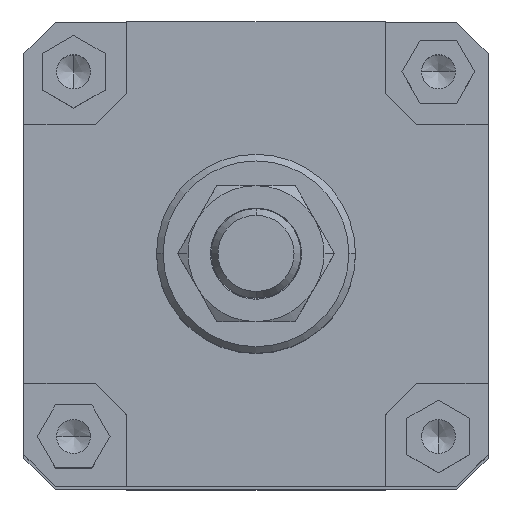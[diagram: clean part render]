
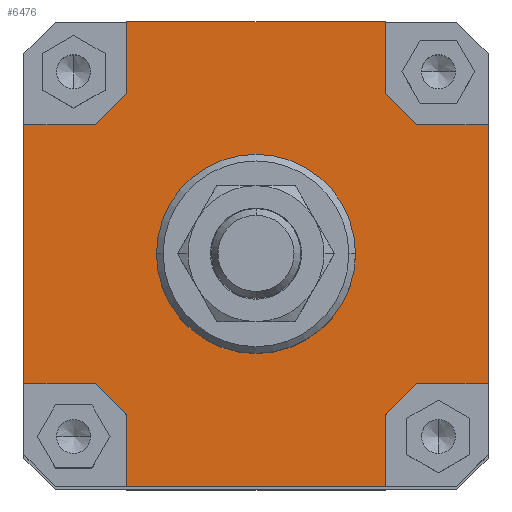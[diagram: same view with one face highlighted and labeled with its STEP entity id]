
A CAD part, top view. The second image highlights one B-rep face of the part: STEP entity #6476.
In plain terms, the highlighted planar face has unit normal (0, 0, 1).
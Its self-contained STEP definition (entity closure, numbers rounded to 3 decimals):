
#2320=CARTESIAN_POINT('',(-30.0,0.,330.0));
#2321=VERTEX_POINT('',#2320);
#2330=CARTESIAN_POINT('',(30.0,0.,330.0));
#2331=VERTEX_POINT('',#2330);
#2332=CARTESIAN_POINT('',(0.0,0.0,330.0));
#2333=DIRECTION('',(0.0,0.0,-1.0));
#2334=DIRECTION('',(-1.0,0.0,0.0));
#2335=AXIS2_PLACEMENT_3D('',#2332,#2333,#2334);
#2336=CIRCLE('',#2335,30.0);
#2337=EDGE_CURVE('',#2331,#2321,#2336,.T.);
#2557=CARTESIAN_POINT('',(0.0,0.0,330.0));
#2558=DIRECTION('',(0.0,0.0,-1.0));
#2559=DIRECTION('',(-1.0,0.0,0.0));
#2560=AXIS2_PLACEMENT_3D('',#2557,#2558,#2559);
#2561=CIRCLE('',#2560,30.0);
#2562=EDGE_CURVE('',#2321,#2331,#2561,.T.);
#2641=CARTESIAN_POINT('',(-39.,70.,330.0));
#2642=VERTEX_POINT('',#2641);
#2649=CARTESIAN_POINT('',(39.,70.,330.0));
#2650=VERTEX_POINT('',#2649);
#2651=CARTESIAN_POINT('',(-39.,70.,330.0));
#2652=DIRECTION('',(1.0,0.0,0.0));
#2653=VECTOR('',#2652,78.);
#2654=LINE('',#2651,#2653);
#2655=EDGE_CURVE('',#2642,#2650,#2654,.T.);
#3100=CARTESIAN_POINT('',(70.,39.,330.0));
#3101=VERTEX_POINT('',#3100);
#3108=CARTESIAN_POINT('',(70.,-39.0,330.0));
#3109=VERTEX_POINT('',#3108);
#3110=CARTESIAN_POINT('',(70.,39.,330.0));
#3111=DIRECTION('',(0.0,-1.0,0.0));
#3112=VECTOR('',#3111,78.);
#3113=LINE('',#3110,#3112);
#3114=EDGE_CURVE('',#3101,#3109,#3113,.T.);
#3181=CARTESIAN_POINT('',(-39.,-48.5,330.0));
#3182=VERTEX_POINT('',#3181);
#3189=CARTESIAN_POINT('',(-48.5,-39.,330.0));
#3190=VERTEX_POINT('',#3189);
#3191=CARTESIAN_POINT('',(-39.,-48.5,330.0));
#3192=DIRECTION('',(-0.707,0.707,0.0));
#3193=VECTOR('',#3192,13.435);
#3194=LINE('',#3191,#3193);
#3195=EDGE_CURVE('',#3182,#3190,#3194,.T.);
#3309=CARTESIAN_POINT('',(-70.,-39.,330.0));
#3310=VERTEX_POINT('',#3309);
#3311=CARTESIAN_POINT('',(-70.,-39.,330.0));
#3312=DIRECTION('',(1.0,0.0,0.0));
#3313=VECTOR('',#3312,21.5);
#3314=LINE('',#3311,#3313);
#3315=EDGE_CURVE('',#3310,#3190,#3314,.T.);
#3342=CARTESIAN_POINT('',(48.5,-39.,330.0));
#3343=VERTEX_POINT('',#3342);
#3350=CARTESIAN_POINT('',(39.,-48.5,330.0));
#3351=VERTEX_POINT('',#3350);
#3352=CARTESIAN_POINT('',(48.5,-39.,330.0));
#3353=DIRECTION('',(-0.707,-0.707,0.0));
#3354=VECTOR('',#3353,13.435);
#3355=LINE('',#3352,#3354);
#3356=EDGE_CURVE('',#3343,#3351,#3355,.T.);
#3454=CARTESIAN_POINT('',(39.,-70.,330.0));
#3455=VERTEX_POINT('',#3454);
#3456=CARTESIAN_POINT('',(39.,-70.,330.0));
#3457=DIRECTION('',(0.0,1.0,0.0));
#3458=VECTOR('',#3457,21.5);
#3459=LINE('',#3456,#3458);
#3460=EDGE_CURVE('',#3455,#3351,#3459,.T.);
#3487=CARTESIAN_POINT('',(39.,48.5,330.0));
#3488=VERTEX_POINT('',#3487);
#3495=CARTESIAN_POINT('',(48.5,39.,330.0));
#3496=VERTEX_POINT('',#3495);
#3497=CARTESIAN_POINT('',(39.,48.5,330.0));
#3498=DIRECTION('',(0.707,-0.707,0.0));
#3499=VECTOR('',#3498,13.435);
#3500=LINE('',#3497,#3499);
#3501=EDGE_CURVE('',#3488,#3496,#3500,.T.);
#3592=CARTESIAN_POINT('',(70.,39.,330.0));
#3593=DIRECTION('',(-1.0,0.0,0.0));
#3594=VECTOR('',#3593,21.5);
#3595=LINE('',#3592,#3594);
#3596=EDGE_CURVE('',#3101,#3496,#3595,.T.);
#3609=CARTESIAN_POINT('',(-48.5,39.,330.0));
#3610=VERTEX_POINT('',#3609);
#3617=CARTESIAN_POINT('',(-39.,48.5,330.0));
#3618=VERTEX_POINT('',#3617);
#3619=CARTESIAN_POINT('',(-48.5,39.,330.0));
#3620=DIRECTION('',(0.707,0.707,0.0));
#3621=VECTOR('',#3620,13.435);
#3622=LINE('',#3619,#3621);
#3623=EDGE_CURVE('',#3610,#3618,#3622,.T.);
#3640=CARTESIAN_POINT('',(-39.,70.,330.0));
#3641=DIRECTION('',(0.0,-1.0,0.0));
#3642=VECTOR('',#3641,21.5);
#3643=LINE('',#3640,#3642);
#3644=EDGE_CURVE('',#2642,#3618,#3643,.T.);
#4674=CARTESIAN_POINT('',(-70.,39.0,330.0));
#4675=VERTEX_POINT('',#4674);
#4676=CARTESIAN_POINT('',(-70.,-39.,330.0));
#4677=DIRECTION('',(0.0,1.0,0.0));
#4678=VECTOR('',#4677,78.0);
#4679=LINE('',#4676,#4678);
#4680=EDGE_CURVE('',#3310,#4675,#4679,.T.);
#6070=CARTESIAN_POINT('',(-48.5,39.,330.0));
#6071=DIRECTION('',(-1.0,0.0,0.0));
#6072=VECTOR('',#6071,21.5);
#6073=LINE('',#6070,#6072);
#6074=EDGE_CURVE('',#3610,#4675,#6073,.T.);
#6231=CARTESIAN_POINT('',(39.,48.5,330.0));
#6232=DIRECTION('',(0.0,1.0,0.0));
#6233=VECTOR('',#6232,21.5);
#6234=LINE('',#6231,#6233);
#6235=EDGE_CURVE('',#3488,#2650,#6234,.T.);
#6392=CARTESIAN_POINT('',(48.5,-39.,330.0));
#6393=DIRECTION('',(1.0,0.0,0.0));
#6394=VECTOR('',#6393,21.5);
#6395=LINE('',#6392,#6394);
#6396=EDGE_CURVE('',#3343,#3109,#6395,.T.);
#6437=CARTESIAN_POINT('',(0.,0.,330.0));
#6438=DIRECTION('',(0.0,0.0,1.0));
#6439=DIRECTION('',(1.0,0.0,0.0));
#6440=AXIS2_PLACEMENT_3D('',#6437,#6438,#6439);
#6441=PLANE('',#6440);
#6442=ORIENTED_EDGE('',*,*,#3644,.T.);
#6443=ORIENTED_EDGE('',*,*,#3623,.F.);
#6444=ORIENTED_EDGE('',*,*,#6074,.T.);
#6445=ORIENTED_EDGE('',*,*,#4680,.F.);
#6446=ORIENTED_EDGE('',*,*,#3315,.T.);
#6447=ORIENTED_EDGE('',*,*,#3195,.F.);
#6448=CARTESIAN_POINT('',(-39.,-70.,330.0));
#6449=VERTEX_POINT('',#6448);
#6450=CARTESIAN_POINT('',(-39.,-48.5,330.0));
#6451=DIRECTION('',(0.0,-1.0,0.0));
#6452=VECTOR('',#6451,21.5);
#6453=LINE('',#6450,#6452);
#6454=EDGE_CURVE('',#3182,#6449,#6453,.T.);
#6455=ORIENTED_EDGE('',*,*,#6454,.T.);
#6456=CARTESIAN_POINT('',(39.,-70.,330.0));
#6457=DIRECTION('',(-1.0,0.0,0.0));
#6458=VECTOR('',#6457,78.);
#6459=LINE('',#6456,#6458);
#6460=EDGE_CURVE('',#3455,#6449,#6459,.T.);
#6461=ORIENTED_EDGE('',*,*,#6460,.F.);
#6462=ORIENTED_EDGE('',*,*,#3460,.T.);
#6463=ORIENTED_EDGE('',*,*,#3356,.F.);
#6464=ORIENTED_EDGE('',*,*,#6396,.T.);
#6465=ORIENTED_EDGE('',*,*,#3114,.F.);
#6466=ORIENTED_EDGE('',*,*,#3596,.T.);
#6467=ORIENTED_EDGE('',*,*,#3501,.F.);
#6468=ORIENTED_EDGE('',*,*,#6235,.T.);
#6469=ORIENTED_EDGE('',*,*,#2655,.F.);
#6470=EDGE_LOOP('',(#6442,#6443,#6444,#6445,#6446,#6447,#6455,#6461,#6462,#6463,#6464,#6465,#6466,#6467,#6468,#6469));
#6471=FACE_OUTER_BOUND('',#6470,.T.);
#6472=ORIENTED_EDGE('',*,*,#2337,.T.);
#6473=ORIENTED_EDGE('',*,*,#2562,.T.);
#6474=EDGE_LOOP('',(#6472,#6473));
#6475=FACE_BOUND('',#6474,.T.);
#6476=ADVANCED_FACE('',(#6471,#6475),#6441,.T.);
